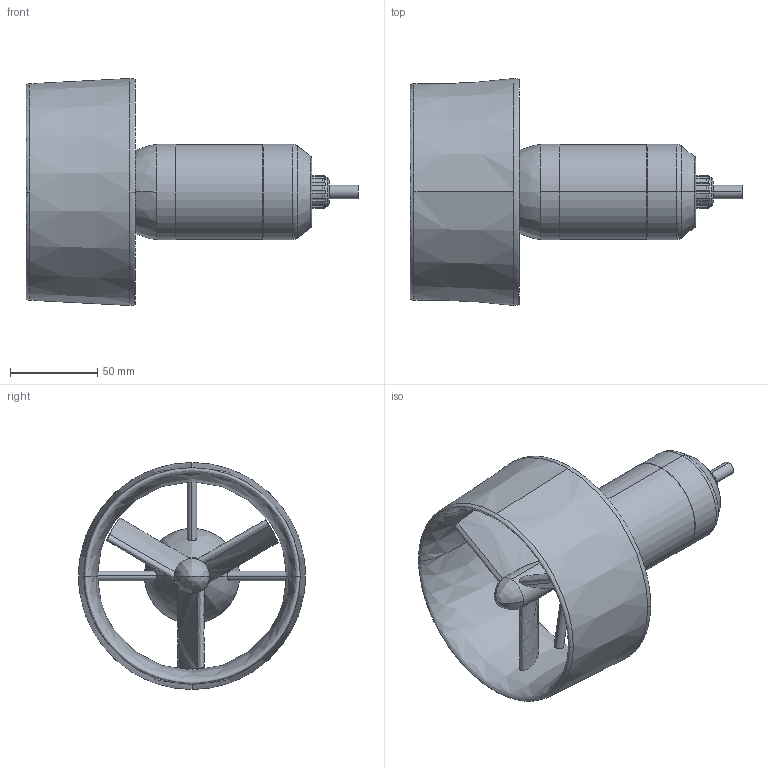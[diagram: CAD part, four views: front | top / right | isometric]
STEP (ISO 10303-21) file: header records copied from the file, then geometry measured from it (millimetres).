
FILE_DESCRIPTION (( 'STEP AP203' ), '1' );
FILE_NAME ('DW15.STEP', '2024-01-26T02:47:58', ( '微软用户' ), ( '微软中国' ), 'SwSTEP 2.0', 'SolidWorks 2022', '' );
FILE_SCHEMA (( 'CONFIG_CONTROL_DESIGN' ));
Length unit declared in the file: millimetre
Products named in the file (1): DW15
Bounding box: 190.44 x 130.24 x 130.22 mm (x, y, z)
Volume: 469060 mm3; surface area: 84889.3 mm2
Topology: 1 solids, 1 shells, 101 faces, 268 edges, 168 vertices
Faces by surface type: cylinder 53, torus 20, bspline 12, cone 12, plane 4
Entity records: 4826 total; most frequent: CARTESIAN_POINT 2350, ORIENTED_EDGE 532, DIRECTION 475, EDGE_CURVE 266, AXIS2_PLACEMENT_3D 203, VERTEX_POINT 168, CIRCLE 113, EDGE_LOOP 110
